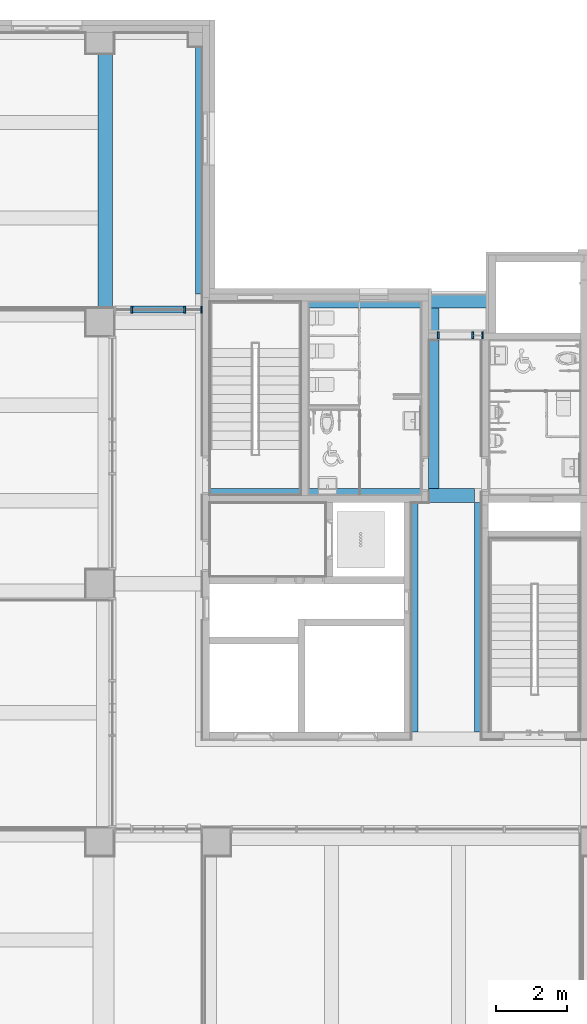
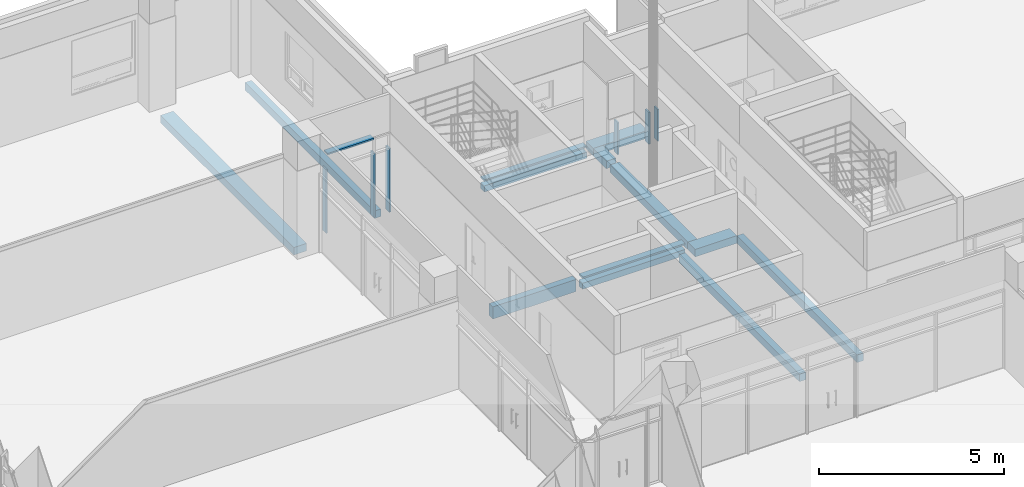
# One storey, part 6 of 82: 7 beams, 7 members, 2 elements without a shape of their own.
"""IFC2X3 building model written with IfcOpenShell, lengths in millimetres."""

from ifc_helpers import new_model, entity, si_unit, converted_unit, derived_unit, direction, frame, frame_2d, origin, origin_2d_with_axis, place, context, subcontext, project, spatial, rectangle, extrude, source, transform, mapped, material, type_object, type_shapes, element, aggregate, save


model = new_model("IFC2X3")

# Units and contexts
model_context = context("Model", 3, precision=0.01, world=origin(), true_north=direction((6.123031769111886e-17, 1.0)))
body_context = subcontext(model_context, "Body", "Model", "MODEL_VIEW")
ifc_project = project(units=[si_unit("LENGTHUNIT", "METRE", prefix="MILLI"), si_unit("AREAUNIT", "SQUARE_METRE"), si_unit("VOLUMEUNIT", "CUBIC_METRE"), converted_unit("PLANEANGLEUNIT", "DEGREE", entity("IfcRatioMeasure", 0.017453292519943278), si_unit("PLANEANGLEUNIT", "RADIAN"), dimensions=[0, 0, 0, 0, 0, 0, 0]), si_unit("MASSUNIT", "GRAM", prefix="KILO"), derived_unit("MASSDENSITYUNIT", [(si_unit("MASSUNIT", "GRAM", prefix="KILO"), 1), (si_unit("LENGTHUNIT", "METRE"), -3)]), derived_unit("MOMENTOFINERTIAUNIT", [(si_unit("LENGTHUNIT", "METRE"), 4)]), si_unit("TIMEUNIT", "SECOND"), si_unit("FREQUENCYUNIT", "HERTZ"), si_unit("THERMODYNAMICTEMPERATUREUNIT", "DEGREE_CELSIUS"), derived_unit("THERMALTRANSMITTANCEUNIT", [(si_unit("MASSUNIT", "GRAM", prefix="KILO"), 1), (si_unit("THERMODYNAMICTEMPERATUREUNIT", "KELVIN"), -1), (si_unit("TIMEUNIT", "SECOND"), -3)]), derived_unit("VOLUMETRICFLOWRATEUNIT", [(si_unit("LENGTHUNIT", "METRE"), 3), (si_unit("TIMEUNIT", "SECOND"), -1)]), derived_unit("MASSFLOWRATEUNIT", [(si_unit("MASSUNIT", "GRAM", prefix="KILO"), 1), (si_unit("TIMEUNIT", "SECOND"), -1)]), derived_unit("ROTATIONALFREQUENCYUNIT", [(si_unit("TIMEUNIT", "SECOND"), -1)]), si_unit("ELECTRICCURRENTUNIT", "AMPERE"), si_unit("ELECTRICVOLTAGEUNIT", "VOLT"), si_unit("POWERUNIT", "WATT"), si_unit("FORCEUNIT", "NEWTON", prefix="KILO"), si_unit("ILLUMINANCEUNIT", "LUX"), si_unit("LUMINOUSFLUXUNIT", "LUMEN"), si_unit("LUMINOUSINTENSITYUNIT", "CANDELA"), derived_unit("USERDEFINED", [(si_unit("MASSUNIT", "GRAM", prefix="KILO"), -1), (si_unit("LENGTHUNIT", "METRE"), -2), (si_unit("TIMEUNIT", "SECOND"), 3), (si_unit("LUMINOUSFLUXUNIT", "LUMEN"), 1)]), derived_unit("SOUNDPOWERUNIT", [(si_unit("MASSUNIT", "GRAM", prefix="KILO"), 1), (si_unit("LENGTHUNIT", "METRE"), 2), (si_unit("TIMEUNIT", "SECOND"), -3)]), derived_unit("SOUNDPRESSUREUNIT", [(si_unit("MASSUNIT", "GRAM", prefix="KILO"), 1), (si_unit("LENGTHUNIT", "METRE"), -1), (si_unit("TIMEUNIT", "SECOND"), -2)]), derived_unit("LINEARVELOCITYUNIT", [(si_unit("LENGTHUNIT", "METRE"), 1), (si_unit("TIMEUNIT", "SECOND"), -1)]), si_unit("PRESSUREUNIT", "PASCAL"), derived_unit("USERDEFINED", [(si_unit("LENGTHUNIT", "METRE"), -2), (si_unit("MASSUNIT", "GRAM", prefix="KILO"), 1), (si_unit("TIMEUNIT", "SECOND"), -2)]), derived_unit("LINEARFORCEUNIT", [(si_unit("MASSUNIT", "GRAM", prefix="KILO"), 1), (si_unit("LENGTHUNIT", "METRE"), 1), (si_unit("TIMEUNIT", "SECOND"), -2), (si_unit("LENGTHUNIT", "METRE"), -1)]), derived_unit("PLANARFORCEUNIT", [(si_unit("MASSUNIT", "GRAM", prefix="KILO"), 1), (si_unit("LENGTHUNIT", "METRE"), 1), (si_unit("TIMEUNIT", "SECOND"), -2), (si_unit("LENGTHUNIT", "METRE"), -2)])], contexts=[model_context])

# Site, building, storey
site_placement = place(None, frame((-14167.972527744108, -657.2125860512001, 0.0)))
site = spatial("IfcSite", under=ifc_project, at=site_placement, Name="Default", CompositionType="ELEMENT")
building_placement = place(site_placement, origin())
building = spatial("IfcBuilding", under=site, at=building_placement, Name="Sample Building", CompositionType="ELEMENT")
storey_placement = place(building_placement, frame((0.0, 0.0, 17500.0)))
storey = spatial("IfcBuildingStorey", under=building, at=storey_placement, Name="지상 5층", CompositionType="ELEMENT", Elevation=17500.00000000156)

# Curtain wall, members
curtain_wall_type = type_object("IfcCurtainWallType", Name="커튼월:CW112-스테인리스 스틸 커튼월", PredefinedType="NOTDEFINED")
curtain_wall_1_placement = place(storey_placement, frame((0.0, 0.0, -17500.0)))
curtain_wall_1 = element("IfcCurtainWall", 1, at=curtain_wall_1_placement, inside=storey, type_object=curtain_wall_type, Name="커튼월:CW112-스테인리스 스틸 커튼월", ObjectType="커튼월:CW112-스테인리스 스틸 커튼월")
ifc_material_1 = material(Name="<Unnamed>")
member_type_1 = type_object("IfcMemberType", Name="직사각형 멀리언:CW200-직사각형 멀리언 50x200mm", PredefinedType="MULLION", material=ifc_material_1)
shared_shape_1 = source(origin(), body_context, "Body", "SweptSolid", [
    extrude(rectangle(XDim=200.0, YDim=50.0, at=origin_2d_with_axis()), frame((-25.0, 0.0, -1450.0), z_axis=(0.0, 0.0, 1.0), x_axis=(0.0, -1.0, 0.0)), (0.0, 0.0, 1.0), 1450.0000000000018),
])
type_shapes(member_type_1, [shared_shape_1])
member_1_placement = place(curtain_wall_1_placement, frame((28091.12581445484, 27712.21230799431, 20200.0), z_axis=(-1.0, 0.0, 0.0), x_axis=(0.0, 0.0, 1.0)))
member_1 = element("IfcMember", 2, at=member_1_placement, type_object=member_type_1, material=ifc_material_1, Name="직사각형 멀리언:CW200-직사각형 멀리언 50x200mm", ObjectType="직사각형 멀리언:CW200-직사각형 멀리언 50x200mm", context=body_context, shape_type="MappedRepresentation", body=[
    mapped(shared_shape_1, transform((0.0, 0.0, 0.0), scale=1.0)),
])
member_type_2 = type_object("IfcMemberType", Name="직사각형 멀리언:CW200-직사각형 멀리언 50x200mm", PredefinedType="MULLION", material=ifc_material_1)
shared_shape_2 = source(origin(), body_context, "Body", "SweptSolid", [
    extrude(rectangle(XDim=200.0, YDim=50.0, at=origin_2d_with_axis()), frame((-25.0, 0.0, -2100.0), z_axis=(0.0, 0.0, 1.0), x_axis=(0.0, -1.0, 0.0)), (0.0, 0.0, 1.0), 2099.9999999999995),
])
type_shapes(member_type_2, [shared_shape_2])
member_2_placement = place(curtain_wall_1_placement, frame((30067.96376153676, 27712.212307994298, 19680.0)))
member_2 = element("IfcMember", 3, at=member_2_placement, type_object=member_type_2, material=ifc_material_1, Name="직사각형 멀리언:CW200-직사각형 멀리언 50x200mm", ObjectType="직사각형 멀리언:CW200-직사각형 멀리언 50x200mm", context=body_context, shape_type="MappedRepresentation", body=[
    mapped(shared_shape_2, transform((0.0, 0.0, 0.0), scale=1.0)),
])

# Curtain wall, member
curtain_wall_2_placement = place(storey_placement, frame((0.0, 0.0, -17500.0)))
curtain_wall_2 = element("IfcCurtainWall", 4, at=curtain_wall_2_placement, inside=storey, type_object=curtain_wall_type, Name="커튼월:CW112-스테인리스 스틸 커튼월", ObjectType="커튼월:CW112-스테인리스 스틸 커튼월")
member_type_3 = type_object("IfcMemberType", Name="직사각형 멀리언:CW200-직사각형 멀리언 50x200mm", PredefinedType="MULLION", material=ifc_material_1)
shared_shape_3 = source(origin(), body_context, "Body", "SweptSolid", [
    extrude(rectangle(XDim=200.0, YDim=50.0, at=origin_2d_with_axis()), frame((-25.0, 0.0, -1050.0), z_axis=(0.0, 0.0, 1.0), x_axis=(0.0, -1.0, 0.0)), (0.0, 0.0, 1.0), 1050.0),
])
type_shapes(member_type_3, [shared_shape_3])
member_3_placement = place(curtain_wall_2_placement, frame((36717.963798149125, 26982.212295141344, 18630.0), z_axis=(0.0, 0.0, 1.0), x_axis=(-1.0, 0.0, 0.0)))
member_3 = element("IfcMember", 5, at=member_3_placement, type_object=member_type_3, material=ifc_material_1, Name="직사각형 멀리언:CW200-직사각형 멀리언 50x200mm", ObjectType="직사각형 멀리언:CW200-직사각형 멀리언 50x200mm", context=body_context, shape_type="MappedRepresentation", body=[
    mapped(shared_shape_3, transform((0.0, 0.0, 0.0), scale=1.0)),
])

# Member
member_type_4 = type_object("IfcMemberType", Name="직사각형 멀리언:CW200-직사각형 멀리언 50x200mm", PredefinedType="MULLION", material=ifc_material_1)
shared_shape_4 = source(origin(), body_context, "Body", "SweptSolid", [
    extrude(rectangle(XDim=200.0, YDim=50.0, at=origin_2d_with_axis()), frame((0.0, 0.0, -2100.0), z_axis=(0.0, 0.0, 1.0), x_axis=(0.0, -1.0, 0.0)), (0.0, 0.0, 1.0), 2100.0),
])
type_shapes(member_type_4, [shared_shape_4])
member_4_placement = place(curtain_wall_1_placement, frame((29566.125814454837, 27712.212307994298, 17580.0), z_axis=(0.0, 0.0, -1.0), x_axis=(-1.0, 0.0, 0.0)))
member_4 = element("IfcMember", 6, at=member_4_placement, type_object=member_type_4, material=ifc_material_1, Name="직사각형 멀리언:CW200-직사각형 멀리언 50x200mm", ObjectType="직사각형 멀리언:CW200-직사각형 멀리언 50x200mm", context=body_context, shape_type="MappedRepresentation", body=[
    mapped(shared_shape_4, transform((0.0, 0.0, 0.0), scale=1.0)),
])

member_5_placement = place(curtain_wall_1_placement, frame((28066.12581445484, 27712.21230799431, 17580.0), z_axis=(0.0, 0.0, -1.0), x_axis=(-1.0, 0.0, 0.0)))
member_5 = element("IfcMember", 7, at=member_5_placement, type_object=member_type_4, material=ifc_material_1, Name="직사각형 멀리언:CW200-직사각형 멀리언 50x200mm", ObjectType="직사각형 멀리언:CW200-직사각형 멀리언 50x200mm", context=body_context, shape_type="MappedRepresentation", body=[
    mapped(shared_shape_4, transform((0.0, 0.0, 0.0), scale=1.0)),
])

aggregate(curtain_wall_1, [member_2, member_4, member_1, member_5])

member_type_5 = type_object("IfcMemberType", Name="직사각형 멀리언:CW200-직사각형 멀리언 50x200mm", PredefinedType="MULLION", material=ifc_material_1)
shared_shape_5 = source(origin(), body_context, "Body", "SweptSolid", [
    extrude(rectangle(XDim=200.0, YDim=50.0, at=origin_2d_with_axis()), frame((-25.0, 0.0, -1050.0), z_axis=(0.0, 0.0, 1.0), x_axis=(0.0, -1.0, 0.0)), (0.0, 0.0, 1.0), 1049.9999999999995),
])
type_shapes(member_type_5, [shared_shape_5])
member_6_placement = place(curtain_wall_2_placement, frame((38017.97249112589, 26982.21229514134, 17580.0), z_axis=(0.0, 0.0, -1.0), x_axis=(1.0, 0.0, 0.0)))
member_6 = element("IfcMember", 8, at=member_6_placement, type_object=member_type_5, material=ifc_material_1, Name="직사각형 멀리언:CW200-직사각형 멀리언 50x200mm", ObjectType="직사각형 멀리언:CW200-직사각형 멀리언 50x200mm", context=body_context, shape_type="MappedRepresentation", body=[
    mapped(shared_shape_5, transform((0.0, 0.0, 0.0), scale=1.0)),
])

member_type_6 = type_object("IfcMemberType", Name="직사각형 멀리언:CW200-직사각형 멀리언 50x200mm", PredefinedType="MULLION", material=ifc_material_1)
shared_shape_6 = source(origin(), body_context, "Body", "SweptSolid", [
    extrude(rectangle(XDim=200.0, YDim=50.0, at=origin_2d_with_axis()), frame((0.0, 0.0, -1050.0), z_axis=(0.0, 0.0, 1.0), x_axis=(0.0, -1.0, 0.0)), (0.0, 0.0, 1.0), 1049.9999999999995),
])
type_shapes(member_type_6, [shared_shape_6])
member_7_placement = place(curtain_wall_2_placement, frame((37717.963798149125, 26982.21229514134, 17580.0), z_axis=(0.0, 0.0, -1.0), x_axis=(1.0, 0.0, 0.0)))
member_7 = element("IfcMember", 9, at=member_7_placement, type_object=member_type_6, material=ifc_material_1, Name="직사각형 멀리언:CW200-직사각형 멀리언 50x200mm", ObjectType="직사각형 멀리언:CW200-직사각형 멀리언 50x200mm", context=body_context, shape_type="MappedRepresentation", body=[
    mapped(shared_shape_6, transform((0.0, 0.0, 0.0), scale=1.0)),
])

aggregate(curtain_wall_2, [member_6, member_7, member_3])

# Beams
ifc_material_2 = material(Name="KBIMS-콘크리트")
beam_type_1 = type_object("IfcBeamType", Name="BM111-철근콘크리트구조 보:BM110-철근 콘크리트구조 보_400 x 400_2-10G10", PredefinedType="NOTDEFINED")
beam_1_placement = place(storey_placement, frame((27318.061800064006, 27357.212478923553, 0.0), z_axis=(0.0, 0.0, 1.0), x_axis=(0.0, 1.0, 0.0)))
element("IfcBeam", 10, at=beam_1_placement, inside=storey, type_object=beam_type_1, material=ifc_material_2, Name="BM111-철근콘크리트구조 보:BM110-철근 콘크리트구조 보_400 x 400_2-10G10", ObjectType="BM111-철근콘크리트구조 보:BM110-철근 콘크리트구조 보_400 x 400_2-10G10", context=body_context, shape_type="SweptSolid", body=[
    extrude(rectangle(XDim=250.00000000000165, YDim=400.000000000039, at=frame_2d((-1.0800249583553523e-12, -2.1657342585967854e-11), x_axis=(1.0, 0.0))), frame((400.0001381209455, 0.0, -275.0), z_axis=(1.0, 0.0, 0.0), x_axis=(0.0, 0.0, -1.0)), (0.0, 0.0, 1.0), 7199.999987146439),
])
beam_type_2 = type_object("IfcBeamType", Name="BM111-철근콘크리트구조 보:BM110-철근 콘크리트구조 보_400 x 400_2-10G2", PredefinedType="BEAM", material=ifc_material_2)
beam_2_placement = place(storey_placement, frame((30067.94641218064, 28157.212604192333, 0.0), z_axis=(0.0, 0.0, 1.0), x_axis=(0.0, 1.0, 0.0)))
element("IfcBeam", 11, at=beam_2_placement, inside=storey, type_object=beam_type_2, material=ifc_material_2, Name="BM111-철근콘크리트구조 보:BM110-철근 콘크리트구조 보_400 x 400_2-10G2", ObjectType="BM111-철근콘크리트구조 보:BM110-철근 콘크리트구조 보_400 x 400_2-10G2", context=body_context, shape_type="SweptSolid", body=[
    extrude(rectangle(XDim=250.00000000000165, YDim=200.01734935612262, at=frame_2d((-1.0800249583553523e-12, -6.501466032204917e-12), x_axis=(1.0, 0.0))), frame((0.0, 99.99132532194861, -275.0), z_axis=(1.0, 0.0, 0.0), x_axis=(0.0, 0.0, -1.0)), (0.0, 0.0, 1.0), 7000.000012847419),
])
beam_type_3 = type_object("IfcBeamType", Name="BM111-철근콘크리트구조 보:BM110-철근 콘크리트구조 보_400 x 400_2-10WG2", PredefinedType="NOTDEFINED")
beam_3_placement = place(storey_placement, frame((35967.95514177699, 15557.212604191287, 0.0), z_axis=(0.0, 0.0, 1.0), x_axis=(0.0, 1.0, 0.0)))
element("IfcBeam", 12, at=beam_3_placement, inside=storey, type_object=beam_type_3, material=ifc_material_2, Name="BM111-철근콘크리트구조 보:BM110-철근 콘크리트구조 보_400 x 400_2-10WG2", ObjectType="BM111-철근콘크리트구조 보:BM110-철근 콘크리트구조 보_400 x 400_2-10WG2", context=body_context, shape_type="SweptSolid", body=[
    extrude(rectangle(XDim=250.00000000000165, YDim=199.98265064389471, at=frame_2d((-1.0800249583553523e-12, -2.1600499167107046e-12), x_axis=(1.0, 0.0))), frame((200.0, -100.00867467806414, -275.0), z_axis=(1.0, 0.0, 0.0), x_axis=(0.0, 0.0, -1.0)), (0.0, 0.0, 1.0), 6499.999509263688),
])
beam_type_4 = type_object("IfcBeamType", Name="BM111-철근콘크리트구조 보:BM110-철근 콘크리트구조 보_400 x 400_2-10B4", PredefinedType="NOTDEFINED")
beam_4_placement = place(storey_placement, frame((37967.94644879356, 15557.212604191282, 0.0), z_axis=(0.0, 0.0, 1.0), x_axis=(0.0, 1.0, 0.0)))
element("IfcBeam", 13, at=beam_4_placement, inside=storey, type_object=beam_type_4, material=ifc_material_2, Name="BM111-철근콘크리트구조 보:BM110-철근 콘크리트구조 보_400 x 400_2-10B4", ObjectType="BM111-철근콘크리트구조 보:BM110-철근 콘크리트구조 보_400 x 400_2-10B4", context=body_context, shape_type="SweptSolid", body=[
    extrude(rectangle(XDim=250.00000000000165, YDim=200.01734935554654, at=frame_2d((-1.0800249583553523e-12, -4.334310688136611e-12), x_axis=(1.0, 0.0))), frame((200.0, 99.99132532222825, -275.0), z_axis=(1.0, 0.0, 0.0), x_axis=(0.0, 0.0, -1.0)), (0.0, 0.0, 1.0), 6499.49975463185),
])
beam_type_5 = type_object("IfcBeamType", Name="BM111-철근콘크리트구조 보:BM110-철근 콘크리트구조 보_400 x 400_2-10WG2", PredefinedType="BEAM", material=ifc_material_2)
shared_shape_7 = source(origin(), body_context, "Body", "SweptSolid", [
    extrude(rectangle(XDim=49.99999999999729, YDim=199.99980212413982, at=frame_2d((0.0, -2.1671553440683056e-12), x_axis=(1.0, 0.0))), frame((33067.972491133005, 22557.212212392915, 17475.0), z_axis=(1.0, 0.0, 0.0), x_axis=(0.0, 0.0, -1.0)), (0.0, 0.0, 1.0), 3199.9913070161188),
    extrude(rectangle(XDim=250.00000000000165, YDim=400.0000000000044, at=frame_2d((-1.0800249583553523e-12, 0.0), x_axis=(1.0, 0.0))), frame((36467.963798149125, 22457.212113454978, 17225.0), z_axis=(1.0, 0.0, 0.0), x_axis=(0.0, 0.0, -1.0)), (0.0, 0.0, 1.0), 1299.982650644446),
    extrude(rectangle(XDim=400.0, YDim=199.99980212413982, at=frame_2d((0.0, -2.1671553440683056e-12), x_axis=(1.0, 0.0))), frame((30267.946448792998, 22557.212212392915, 17300.0), z_axis=(1.0, 0.0, 0.0), x_axis=(0.0, 0.0, -1.0)), (0.0, 0.0, 1.0), 2600.0260423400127),
    extrude(rectangle(XDim=200.0000000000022, YDim=199.9998021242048, at=frame_2d((0.0, -3.4653169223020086e-11), x_axis=(1.0, 0.0))), frame((33067.972491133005, 22557.212212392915, 17200.0), z_axis=(1.0, 0.0, 0.0), x_axis=(0.0, 0.0, -1.0)), (0.0, 0.0, 1.0), 3199.9913070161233),
])
type_shapes(beam_type_5, [shared_shape_7])
beam_5_placement = place(storey_placement, frame((0.0, 0.0, -17500.0)))
element("IfcBeam", 14, at=beam_5_placement, inside=storey, type_object=beam_type_5, material=ifc_material_2, Name="BM111-철근콘크리트구조 보:BM110-철근 콘크리트구조 보_400 x 400_2-10WG2", ObjectType="BM111-철근콘크리트구조 보:BM110-철근 콘크리트구조 보_400 x 400_2-10WG2", context=body_context, shape_type="MappedRepresentation", body=[
    mapped(shared_shape_7, transform((0.0, 0.0, 0.0), scale=1.0)),
])
beam_type_6 = type_object("IfcBeamType", Name="BM111-철근콘크리트구조 보:BM110-철근 콘크리트구조 보_400 x 400_2-10B4", PredefinedType="BEAM", material=ifc_material_2)
shared_shape_8 = source(origin(), body_context, "Body", "SweptSolid", [
    extrude(rectangle(XDim=250.00000000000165, YDim=300.00011635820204, at=frame_2d((-4.334310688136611e-12, 1.0800249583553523e-12), x_axis=(0.0, 1.0))), frame((36617.96385632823, 26857.212295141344, 17225.0), z_axis=(0.0, -1.0, 0.0), x_axis=(-1.0, 0.0, 0.0)), (0.0, 0.0, 1.0), 4200.000181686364),
    extrude(rectangle(XDim=250.00000000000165, YDim=300.00011635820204, at=frame_2d((0.0, 1.0800249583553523e-12), x_axis=(0.0, 1.0))), frame((36617.96385632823, 27757.212426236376, 17225.0), z_axis=(0.0, -1.0, 0.0), x_axis=(-1.0, 0.0, 0.0)), (0.0, 0.0, 1.0), 700.0001310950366),
])
type_shapes(beam_type_6, [shared_shape_8])
beam_6_placement = place(storey_placement, frame((0.0, 0.0, -17500.0)))
element("IfcBeam", 15, at=beam_6_placement, inside=storey, type_object=beam_type_6, material=ifc_material_2, Name="BM111-철근콘크리트구조 보:BM110-철근 콘크리트구조 보_400 x 400_2-10B4", ObjectType="BM111-철근콘크리트구조 보:BM110-철근 콘크리트구조 보_400 x 400_2-10B4", context=body_context, shape_type="MappedRepresentation", body=[
    mapped(shared_shape_8, transform((0.0, 0.0, 0.0), scale=1.0)),
])
beam_type_7 = type_object("IfcBeamType", Name="BM111-철근콘크리트구조 보:BM110-철근 콘크리트구조 보_400 x 400_2-10B5", PredefinedType="BEAM", material=ifc_material_2)
shared_shape_9 = source(origin(), body_context, "Body", "SweptSolid", [
    extrude(rectangle(XDim=250.00000000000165, YDim=400.0000000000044, at=frame_2d((-1.0800249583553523e-12, 0.0), x_axis=(1.0, 0.0))), frame((36467.963798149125, 27957.212426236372, 17225.0), z_axis=(1.0, 0.0, 0.0), x_axis=(0.0, 0.0, -1.0)), (0.0, 0.0, 1.0), 1700.0086929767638),
    extrude(rectangle(XDim=49.99999999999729, YDim=199.99988175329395, at=frame_2d((0.0, 4.334310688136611e-12), x_axis=(1.0, 0.0))), frame((33067.972491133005, 27857.212367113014, 17475.0), z_axis=(1.0, 0.0, 0.0), x_axis=(0.0, 0.0, -1.0)), (0.0, 0.0, 1.0), 3199.9913070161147),
    extrude(rectangle(XDim=200.0000000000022, YDim=199.99988175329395, at=frame_2d((0.0, 2.1671553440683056e-12), x_axis=(1.0, 0.0))), frame((33067.972491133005, 27857.212367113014, 17200.0), z_axis=(1.0, 0.0, 0.0), x_axis=(0.0, 0.0, -1.0)), (0.0, 0.0, 1.0), 3199.9913070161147),
])
type_shapes(beam_type_7, [shared_shape_9])
beam_7_placement = place(storey_placement, frame((0.0, 0.0, -17500.0)))
element("IfcBeam", 16, at=beam_7_placement, inside=storey, type_object=beam_type_7, material=ifc_material_2, Name="BM111-철근콘크리트구조 보:BM110-철근 콘크리트구조 보_400 x 400_2-10B5", ObjectType="BM111-철근콘크리트구조 보:BM110-철근 콘크리트구조 보_400 x 400_2-10B5", context=body_context, shape_type="MappedRepresentation", body=[
    mapped(shared_shape_9, transform((0.0, 0.0, 0.0), scale=1.0)),
])

save(model, "model.ifc")
